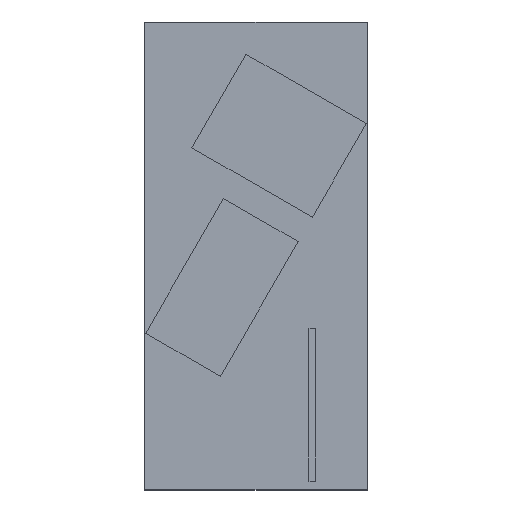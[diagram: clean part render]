
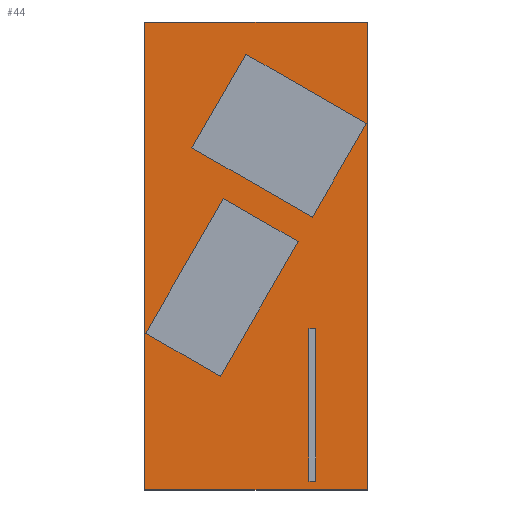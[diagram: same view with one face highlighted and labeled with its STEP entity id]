
A CAD part, top view. The second image highlights one B-rep face of the part: STEP entity #44.
In plain terms, the highlighted planar face has unit normal (0, 0, 1).
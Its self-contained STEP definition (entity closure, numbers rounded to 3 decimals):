
#11=FACE_BOUND('',#117,.T.);
#12=FACE_BOUND('',#118,.T.);
#13=FACE_BOUND('',#119,.T.);
#44=ADVANCED_FACE('',(#80,#11,#12,#13),#550,.T.);
#80=FACE_OUTER_BOUND('',#116,.T.);
#116=EDGE_LOOP('',(#212,#213,#214,#215));
#117=EDGE_LOOP('',(#216,#217,#218,#219));
#118=EDGE_LOOP('',(#220,#221,#222,#223));
#119=EDGE_LOOP('',(#224,#225,#226,#227));
#212=ORIENTED_EDGE('',*,*,#344,.T.);
#213=ORIENTED_EDGE('',*,*,#350,.T.);
#214=ORIENTED_EDGE('',*,*,#349,.T.);
#215=ORIENTED_EDGE('',*,*,#348,.T.);
#216=ORIENTED_EDGE('',*,*,#345,.T.);
#217=ORIENTED_EDGE('',*,*,#353,.T.);
#218=ORIENTED_EDGE('',*,*,#352,.T.);
#219=ORIENTED_EDGE('',*,*,#351,.T.);
#220=ORIENTED_EDGE('',*,*,#346,.T.);
#221=ORIENTED_EDGE('',*,*,#356,.T.);
#222=ORIENTED_EDGE('',*,*,#355,.T.);
#223=ORIENTED_EDGE('',*,*,#354,.T.);
#224=ORIENTED_EDGE('',*,*,#347,.T.);
#225=ORIENTED_EDGE('',*,*,#359,.T.);
#226=ORIENTED_EDGE('',*,*,#358,.T.);
#227=ORIENTED_EDGE('',*,*,#357,.T.);
#344=EDGE_CURVE('',#500,#506,#428,.T.);
#345=EDGE_CURVE('',#501,#509,#429,.T.);
#346=EDGE_CURVE('',#502,#512,#430,.T.);
#347=EDGE_CURVE('',#503,#515,#431,.T.);
#348=EDGE_CURVE('',#504,#500,#432,.T.);
#349=EDGE_CURVE('',#505,#504,#433,.T.);
#350=EDGE_CURVE('',#506,#505,#434,.T.);
#351=EDGE_CURVE('',#507,#501,#435,.T.);
#352=EDGE_CURVE('',#508,#507,#436,.T.);
#353=EDGE_CURVE('',#509,#508,#437,.T.);
#354=EDGE_CURVE('',#510,#502,#438,.T.);
#355=EDGE_CURVE('',#511,#510,#439,.T.);
#356=EDGE_CURVE('',#512,#511,#440,.T.);
#357=EDGE_CURVE('',#513,#503,#441,.T.);
#358=EDGE_CURVE('',#514,#513,#442,.T.);
#359=EDGE_CURVE('',#515,#514,#443,.T.);
#428=B_SPLINE_CURVE_WITH_KNOTS('',1,(#898,#899),.UNSPECIFIED.,.F.,.F.,(2,
2),(0.,1000.),.UNSPECIFIED.);
#429=B_SPLINE_CURVE_WITH_KNOTS('',1,(#900,#901),.UNSPECIFIED.,.F.,.F.,(2,
2),(-2240.,-1750.),.UNSPECIFIED.);
#430=B_SPLINE_CURVE_WITH_KNOTS('',1,(#902,#903),.UNSPECIFIED.,.F.,.F.,(2,
2),(-2210.,-1810.),.UNSPECIFIED.);
#431=B_SPLINE_CURVE_WITH_KNOTS('',1,(#904,#905),.UNSPECIFIED.,.F.,.F.,(2,
2),(-1440.,-1410.),.UNSPECIFIED.);
#432=B_SPLINE_CURVE_WITH_KNOTS('',1,(#906,#907),.UNSPECIFIED.,.F.,.F.,(2,
2),(4100.,6200.),.UNSPECIFIED.);
#433=B_SPLINE_CURVE_WITH_KNOTS('',1,(#908,#909),.UNSPECIFIED.,.F.,.F.,(2,
2),(3100.,4100.),.UNSPECIFIED.);
#434=B_SPLINE_CURVE_WITH_KNOTS('',1,(#910,#911),.UNSPECIFIED.,.F.,.F.,(2,
2),(1000.,3100.),.UNSPECIFIED.);
#435=B_SPLINE_CURVE_WITH_KNOTS('',1,(#912,#913),.UNSPECIFIED.,.F.,.F.,(2,
2),(-630.,0.),.UNSPECIFIED.);
#436=B_SPLINE_CURVE_WITH_KNOTS('',1,(#914,#915),.UNSPECIFIED.,.F.,.F.,(2,
2),(-1120.,-630.),.UNSPECIFIED.);
#437=B_SPLINE_CURVE_WITH_KNOTS('',1,(#916,#917),.UNSPECIFIED.,.F.,.F.,(2,
2),(-1750.,-1120.),.UNSPECIFIED.);
#438=B_SPLINE_CURVE_WITH_KNOTS('',1,(#918,#919),.UNSPECIFIED.,.F.,.F.,(2,
2),(-705.,0.),.UNSPECIFIED.);
#439=B_SPLINE_CURVE_WITH_KNOTS('',1,(#920,#921),.UNSPECIFIED.,.F.,.F.,(2,
2),(-1105.,-705.),.UNSPECIFIED.);
#440=B_SPLINE_CURVE_WITH_KNOTS('',1,(#922,#923),.UNSPECIFIED.,.F.,.F.,(2,
2),(-1810.,-1105.),.UNSPECIFIED.);
#441=B_SPLINE_CURVE_WITH_KNOTS('',1,(#924,#925),.UNSPECIFIED.,.F.,.F.,(2,
2),(-690.,0.),.UNSPECIFIED.);
#442=B_SPLINE_CURVE_WITH_KNOTS('',1,(#926,#927),.UNSPECIFIED.,.F.,.F.,(2,
2),(-720.,-690.),.UNSPECIFIED.);
#443=B_SPLINE_CURVE_WITH_KNOTS('',1,(#928,#929),.UNSPECIFIED.,.F.,.F.,(2,
2),(-1410.,-720.),.UNSPECIFIED.);
#500=VERTEX_POINT('',#866);
#501=VERTEX_POINT('',#867);
#502=VERTEX_POINT('',#868);
#503=VERTEX_POINT('',#869);
#504=VERTEX_POINT('',#870);
#505=VERTEX_POINT('',#871);
#506=VERTEX_POINT('',#872);
#507=VERTEX_POINT('',#873);
#508=VERTEX_POINT('',#874);
#509=VERTEX_POINT('',#875);
#510=VERTEX_POINT('',#876);
#511=VERTEX_POINT('',#877);
#512=VERTEX_POINT('',#878);
#513=VERTEX_POINT('',#879);
#514=VERTEX_POINT('',#880);
#515=VERTEX_POINT('',#881);
#550=PLANE('',#674);
#674=AXIS2_PLACEMENT_3D('',#848,#713,$);
#713=DIRECTION('',(0.,0.,1.));
#848=CARTESIAN_POINT('',(0.,0.,0.));
#866=CARTESIAN_POINT('',(0.,0.,0.));
#867=CARTESIAN_POINT('',(212.31,1535.741,0.));
#868=CARTESIAN_POINT('',(340.252,509.942,0.));
#869=CARTESIAN_POINT('',(737.6,723.3,0.));
#870=CARTESIAN_POINT('',(0.,2100.,0.));
#871=CARTESIAN_POINT('',(1000.,2100.,0.));
#872=CARTESIAN_POINT('',(1000.,0.,0.));
#873=CARTESIAN_POINT('',(752.45,1223.891,0.));
#874=CARTESIAN_POINT('',(995.,1644.,0.));
#875=CARTESIAN_POINT('',(454.86,1955.85,0.));
#876=CARTESIAN_POINT('',(689.227,1114.385,0.));
#877=CARTESIAN_POINT('',(353.975,1307.942,0.));
#878=CARTESIAN_POINT('',(5.,703.5,0.));
#879=CARTESIAN_POINT('',(737.6,40.2,0.));
#880=CARTESIAN_POINT('',(767.3,40.2,0.));
#881=CARTESIAN_POINT('',(767.3,723.3,0.));
#898=CARTESIAN_POINT('',(0.,0.,0.));
#899=CARTESIAN_POINT('',(1000.,0.,0.));
#900=CARTESIAN_POINT('',(212.31,1535.741,0.));
#901=CARTESIAN_POINT('',(454.86,1955.85,0.));
#902=CARTESIAN_POINT('',(340.252,509.942,0.));
#903=CARTESIAN_POINT('',(5.,703.5,0.));
#904=CARTESIAN_POINT('',(737.6,723.3,0.));
#905=CARTESIAN_POINT('',(767.3,723.3,0.));
#906=CARTESIAN_POINT('',(0.,2100.,0.));
#907=CARTESIAN_POINT('',(0.,0.,0.));
#908=CARTESIAN_POINT('',(1000.,2100.,0.));
#909=CARTESIAN_POINT('',(0.,2100.,0.));
#910=CARTESIAN_POINT('',(1000.,0.,0.));
#911=CARTESIAN_POINT('',(1000.,2100.,0.));
#912=CARTESIAN_POINT('',(752.45,1223.891,0.));
#913=CARTESIAN_POINT('',(212.31,1535.741,0.));
#914=CARTESIAN_POINT('',(995.,1644.,0.));
#915=CARTESIAN_POINT('',(752.45,1223.891,0.));
#916=CARTESIAN_POINT('',(454.86,1955.85,0.));
#917=CARTESIAN_POINT('',(995.,1644.,0.));
#918=CARTESIAN_POINT('',(689.227,1114.385,0.));
#919=CARTESIAN_POINT('',(340.252,509.942,0.));
#920=CARTESIAN_POINT('',(353.975,1307.942,0.));
#921=CARTESIAN_POINT('',(689.227,1114.385,0.));
#922=CARTESIAN_POINT('',(5.,703.5,0.));
#923=CARTESIAN_POINT('',(353.975,1307.942,0.));
#924=CARTESIAN_POINT('',(737.6,40.2,0.));
#925=CARTESIAN_POINT('',(737.6,723.3,0.));
#926=CARTESIAN_POINT('',(767.3,40.2,0.));
#927=CARTESIAN_POINT('',(737.6,40.2,0.));
#928=CARTESIAN_POINT('',(767.3,723.3,0.));
#929=CARTESIAN_POINT('',(767.3,40.2,0.));
